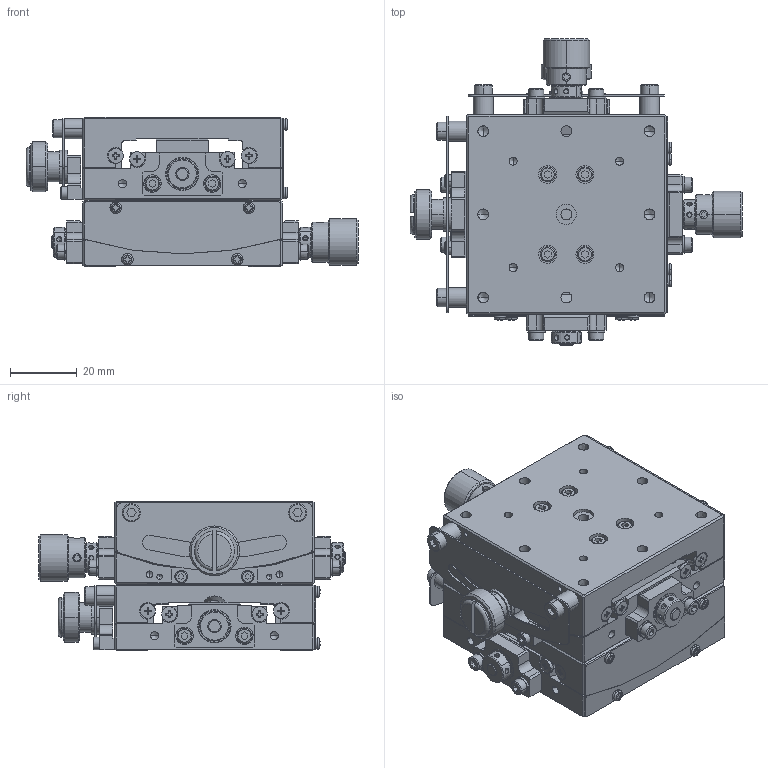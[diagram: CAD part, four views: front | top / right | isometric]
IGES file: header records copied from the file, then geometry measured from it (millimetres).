
Global section: file name: No Iges File Name specified; native system: AutoDesk Inventor R12.0; preprocessor: AutoDesk Inventor Iges Exporter R12.0; author: No Author specified; organization: No Organization specified; date: 20090409.142704; units: millimetre
Bounding box: 99.8 x 92.1 x 45 mm (x, y, z)
Volume: 145892.3 mm3; surface area: 71158.7 mm2
Topology: 3 solids, 124 shells, 2984 faces, 7357 edges, 4594 vertices
Faces by surface type: plane 1251, bspline 815, cylinder 430, cone 244, revolution 160, torus 52, sphere 32
